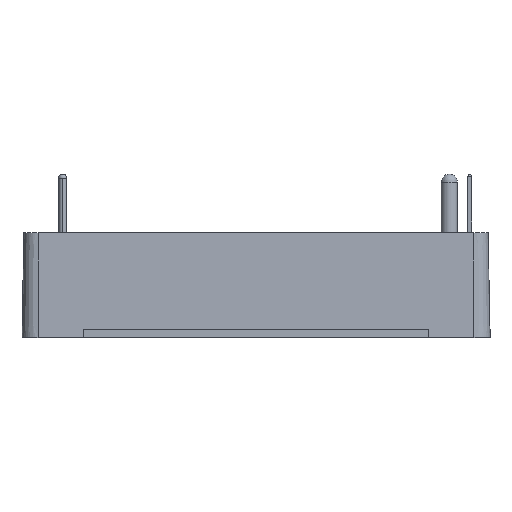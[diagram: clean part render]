
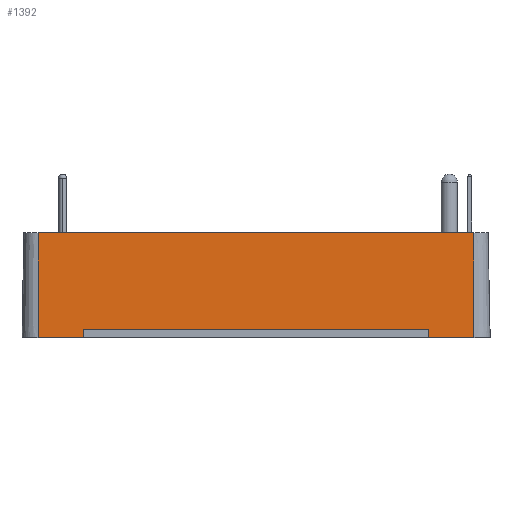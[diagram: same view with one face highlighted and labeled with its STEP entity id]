
A CAD part, top view. The second image highlights one B-rep face of the part: STEP entity #1392.
In plain terms, the highlighted planar face has unit normal (0, 0.018, 1).
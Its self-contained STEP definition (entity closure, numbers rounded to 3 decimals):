
#180 = EDGE_CURVE ( 'NONE', #11101, #3057, #17025, .T. ) ;
#424 = CARTESIAN_POINT ( 'NONE',  ( 27.2, 1., 30.483 ) ) ;
#500 = CARTESIAN_POINT ( 'NONE',  ( -27.2, 13., 30.273 ) ) ;
#508 = CARTESIAN_POINT ( 'NONE',  ( 27.2, 0., 30.5 ) ) ;
#702 = DIRECTION ( 'NONE',  ( 0., 0.017, 1. ) ) ;
#1392 = ADVANCED_FACE ( 'NONE', ( #18701 ), #18419, .T. ) ;
#1576 = EDGE_CURVE ( 'NONE', #2332, #3613, #14729, .T. ) ;
#2332 = VERTEX_POINT ( 'NONE', #8057 ) ;
#2703 = VERTEX_POINT ( 'NONE', #16457 ) ;
#2939 = CARTESIAN_POINT ( 'NONE',  ( 27.2, 13., 30.273 ) ) ;
#3057 = VERTEX_POINT ( 'NONE', #17897 ) ;
#3338 = LINE ( 'NONE', #3624, #8200 ) ;
#3358 = DIRECTION ( 'NONE',  ( -1., 0., 0. ) ) ;
#3584 = DIRECTION ( 'NONE',  ( -1., 0., 0. ) ) ;
#3613 = VERTEX_POINT ( 'NONE', #15219 ) ;
#3624 = CARTESIAN_POINT ( 'NONE',  ( 21.58, 0., 30.5 ) ) ;
#4417 = EDGE_CURVE ( 'NONE', #15531, #19308, #14421, .T. ) ;
#4916 = EDGE_CURVE ( 'NONE', #2703, #3613, #15888, .T. ) ;
#5094 = AXIS2_PLACEMENT_3D ( 'NONE', #508, #702, #6528 ) ;
#5470 = EDGE_CURVE ( 'NONE', #15531, #11296, #17207, .T. ) ;
#6207 = CARTESIAN_POINT ( 'NONE',  ( 21.58, 0., 30.5 ) ) ;
#6528 = DIRECTION ( 'NONE',  ( 0., 1., -0.017 ) ) ;
#7021 = CARTESIAN_POINT ( 'NONE',  ( -21.58, 0., 30.5 ) ) ;
#7224 = DIRECTION ( 'NONE',  ( 0., 1., -0.017 ) ) ;
#7851 = VECTOR ( 'NONE', #3358, 1000. ) ;
#7854 = VECTOR ( 'NONE', #14514, 1000. ) ;
#8008 = EDGE_CURVE ( 'NONE', #2332, #11488, #12249, .T. ) ;
#8057 = CARTESIAN_POINT ( 'NONE',  ( -21.58, 0., 30.5 ) ) ;
#8200 = VECTOR ( 'NONE', #12335, 1000. ) ;
#8244 = ORIENTED_EDGE ( 'NONE', *, *, #16354, .F. ) ;
#8379 = LINE ( 'NONE', #17469, #7854 ) ;
#8588 = CARTESIAN_POINT ( 'NONE',  ( 27.2, 0., 30.5 ) ) ;
#8707 = VERTEX_POINT ( 'NONE', #500 ) ;
#9708 = CARTESIAN_POINT ( 'NONE',  ( 27.2, 0., 30.5 ) ) ;
#9825 = ORIENTED_EDGE ( 'NONE', *, *, #5470, .F. ) ;
#10268 = ORIENTED_EDGE ( 'NONE', *, *, #15090, .T. ) ;
#11101 = VERTEX_POINT ( 'NONE', #15109 ) ;
#11165 = DIRECTION ( 'NONE',  ( 0., 1., -0.017 ) ) ;
#11288 = ORIENTED_EDGE ( 'NONE', *, *, #15343, .F. ) ;
#11296 = VERTEX_POINT ( 'NONE', #6207 ) ;
#11390 = VECTOR ( 'NONE', #7224, 1000. ) ;
#11488 = VERTEX_POINT ( 'NONE', #18327 ) ;
#12249 = LINE ( 'NONE', #18386, #7851 ) ;
#12335 = DIRECTION ( 'NONE',  ( 0., 1., -0.017 ) ) ;
#12619 = VECTOR ( 'NONE', #18395, 1000. ) ;
#12923 = CARTESIAN_POINT ( 'NONE',  ( 27.2, 1., 30.483 ) ) ;
#12943 = VECTOR ( 'NONE', #18956, 1000. ) ;
#13110 = ORIENTED_EDGE ( 'NONE', *, *, #4417, .T. ) ;
#13301 = ORIENTED_EDGE ( 'NONE', *, *, #16524, .F. ) ;
#13592 = VECTOR ( 'NONE', #3584, 1000. ) ;
#13837 = VECTOR ( 'NONE', #16422, 1000. ) ;
#13985 = ORIENTED_EDGE ( 'NONE', *, *, #4916, .F. ) ;
#14421 = LINE ( 'NONE', #18980, #14826 ) ;
#14514 = DIRECTION ( 'NONE',  ( -1., 0., 0. ) ) ;
#14729 = LINE ( 'NONE', #7021, #11390 ) ;
#14826 = VECTOR ( 'NONE', #11165, 1000. ) ;
#14921 = EDGE_LOOP ( 'NONE', ( #13301, #9825, #13110, #10268, #8244, #15515, #19190, #13985, #11288, #18576 ) ) ;
#15090 = EDGE_CURVE ( 'NONE', #19308, #8707, #19484, .T. ) ;
#15109 = CARTESIAN_POINT ( 'NONE',  ( 21.58, 1., 30.483 ) ) ;
#15219 = CARTESIAN_POINT ( 'NONE',  ( -21.58, 1., 30.483 ) ) ;
#15322 = LINE ( 'NONE', #15610, #12619 ) ;
#15343 = EDGE_CURVE ( 'NONE', #3057, #2703, #8379, .T. ) ;
#15515 = ORIENTED_EDGE ( 'NONE', *, *, #8008, .F. ) ;
#15531 = VERTEX_POINT ( 'NONE', #8588 ) ;
#15610 = CARTESIAN_POINT ( 'NONE',  ( -27.2, 0., 30.5 ) ) ;
#15738 = DIRECTION ( 'NONE',  ( -1., 0., 0. ) ) ;
#15786 = VECTOR ( 'NONE', #15738, 1000. ) ;
#15888 = LINE ( 'NONE', #12923, #12943 ) ;
#16354 = EDGE_CURVE ( 'NONE', #11488, #8707, #15322, .T. ) ;
#16422 = DIRECTION ( 'NONE',  ( -1., 0., 0. ) ) ;
#16457 = CARTESIAN_POINT ( 'NONE',  ( -21.555, 1., 30.483 ) ) ;
#16524 = EDGE_CURVE ( 'NONE', #11296, #11101, #3338, .T. ) ;
#17025 = LINE ( 'NONE', #424, #13592 ) ;
#17207 = LINE ( 'NONE', #9708, #15786 ) ;
#17469 = CARTESIAN_POINT ( 'NONE',  ( 27.2, 1., 30.483 ) ) ;
#17897 = CARTESIAN_POINT ( 'NONE',  ( 21.555, 1., 30.483 ) ) ;
#18091 = CARTESIAN_POINT ( 'NONE',  ( -27.2, 13., 30.273 ) ) ;
#18327 = CARTESIAN_POINT ( 'NONE',  ( -27.2, 0., 30.5 ) ) ;
#18386 = CARTESIAN_POINT ( 'NONE',  ( 27.2, 0., 30.5 ) ) ;
#18395 = DIRECTION ( 'NONE',  ( 0., 1., -0.017 ) ) ;
#18419 = PLANE ( 'NONE',  #5094 ) ;
#18576 = ORIENTED_EDGE ( 'NONE', *, *, #180, .F. ) ;
#18701 = FACE_OUTER_BOUND ( 'NONE', #14921, .T. ) ;
#18956 = DIRECTION ( 'NONE',  ( -1., 0., 0. ) ) ;
#18980 = CARTESIAN_POINT ( 'NONE',  ( 27.2, 0., 30.5 ) ) ;
#19190 = ORIENTED_EDGE ( 'NONE', *, *, #1576, .T. ) ;
#19308 = VERTEX_POINT ( 'NONE', #2939 ) ;
#19484 = LINE ( 'NONE', #18091, #13837 ) ;
